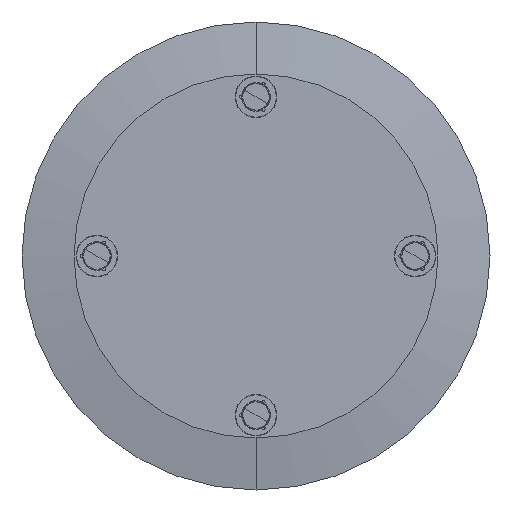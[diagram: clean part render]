
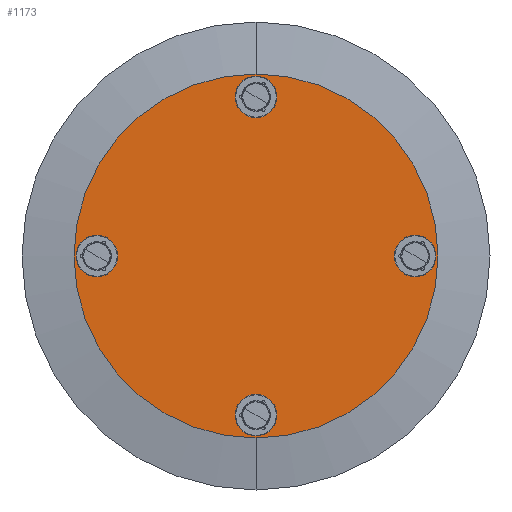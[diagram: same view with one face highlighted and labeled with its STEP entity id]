
A CAD part, front view. The second image highlights one B-rep face of the part: STEP entity #1173.
In plain terms, the highlighted planar face has unit normal (0, -1, 0).
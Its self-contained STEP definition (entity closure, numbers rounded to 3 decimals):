
#9 = AXIS2_PLACEMENT_3D ( 'NONE', #1265, #1843, #286 ) ;
#36 = EDGE_CURVE ( 'NONE', #1624, #1856, #1277, .T. ) ;
#44 = VERTEX_POINT ( 'NONE', #1955 ) ;
#96 = CIRCLE ( 'NONE', #803, 40. ) ;
#120 = AXIS2_PLACEMENT_3D ( 'NONE', #1756, #383, #371 ) ;
#145 = CARTESIAN_POINT ( 'NONE',  ( 0., 0., -350. ) ) ;
#146 = ORIENTED_EDGE ( 'NONE', *, *, #1828, .F. ) ;
#147 = AXIS2_PLACEMENT_3D ( 'NONE', #1286, #2229, #686 ) ;
#221 = FACE_BOUND ( 'NONE', #1071, .T. ) ;
#269 = EDGE_CURVE ( 'NONE', #1872, #1892, #96, .T. ) ;
#277 = CARTESIAN_POINT ( 'NONE',  ( 0., 0., -266. ) ) ;
#286 = DIRECTION ( 'NONE',  ( 0., 0., -1. ) ) ;
#297 = EDGE_CURVE ( 'NONE', #1710, #1587, #1213, .T. ) ;
#308 = VERTEX_POINT ( 'NONE', #277 ) ;
#315 = AXIS2_PLACEMENT_3D ( 'NONE', #1246, #880, #664 ) ;
#323 = CARTESIAN_POINT ( 'NONE',  ( 0., 0., 350. ) ) ;
#371 = DIRECTION ( 'NONE',  ( 0., 0., -1. ) ) ;
#383 = DIRECTION ( 'NONE',  ( 0., -1., 0. ) ) ;
#398 = AXIS2_PLACEMENT_3D ( 'NONE', #1068, #482, #677 ) ;
#464 = DIRECTION ( 'NONE',  ( 0., 0., -1. ) ) ;
#482 = DIRECTION ( 'NONE',  ( 0., -1., 0. ) ) ;
#524 = EDGE_CURVE ( 'NONE', #44, #1959, #964, .T. ) ;
#549 = DIRECTION ( 'NONE',  ( 0., 1., 0. ) ) ;
#585 = ORIENTED_EDGE ( 'NONE', *, *, #654, .F. ) ;
#596 = CARTESIAN_POINT ( 'NONE',  ( 0., 0., -346. ) ) ;
#599 = EDGE_CURVE ( 'NONE', #1587, #1710, #2036, .T. ) ;
#635 = EDGE_CURVE ( 'NONE', #308, #1440, #2156, .T. ) ;
#654 = EDGE_CURVE ( 'NONE', #1959, #44, #1115, .T. ) ;
#664 = DIRECTION ( 'NONE',  ( 0., 0., -1. ) ) ;
#667 = EDGE_LOOP ( 'NONE', ( #585, #1740 ) ) ;
#677 = DIRECTION ( 'NONE',  ( 0., 0., -1. ) ) ;
#681 = ORIENTED_EDGE ( 'NONE', *, *, #36, .F. ) ;
#686 = DIRECTION ( 'NONE',  ( 0., 0., 1. ) ) ;
#700 = FACE_BOUND ( 'NONE', #1074, .T. ) ;
#724 = DIRECTION ( 'NONE',  ( 0., 0., 1. ) ) ;
#781 = DIRECTION ( 'NONE',  ( 0., 0., 1. ) ) ;
#803 = AXIS2_PLACEMENT_3D ( 'NONE', #1628, #2027, #856 ) ;
#817 = CARTESIAN_POINT ( 'NONE',  ( -306., 0., -40. ) ) ;
#818 = CIRCLE ( 'NONE', #913, 40. ) ;
#829 = DIRECTION ( 'NONE',  ( 0., -1., 0. ) ) ;
#840 = CARTESIAN_POINT ( 'NONE',  ( -306., 0., 0. ) ) ;
#856 = DIRECTION ( 'NONE',  ( 0., 0., -1. ) ) ;
#863 = AXIS2_PLACEMENT_3D ( 'NONE', #2301, #549, #781 ) ;
#880 = DIRECTION ( 'NONE',  ( 0., -1., 0. ) ) ;
#905 = CIRCLE ( 'NONE', #2378, 40. ) ;
#913 = AXIS2_PLACEMENT_3D ( 'NONE', #945, #1749, #1328 ) ;
#945 = CARTESIAN_POINT ( 'NONE',  ( 0., 0., 306. ) ) ;
#964 = CIRCLE ( 'NONE', #9, 40. ) ;
#974 = AXIS2_PLACEMENT_3D ( 'NONE', #2085, #1078, #724 ) ;
#979 = CARTESIAN_POINT ( 'NONE',  ( 0., 0., 346. ) ) ;
#1036 = ORIENTED_EDGE ( 'NONE', *, *, #599, .T. ) ;
#1068 = CARTESIAN_POINT ( 'NONE',  ( 306., 0., 0. ) ) ;
#1071 = EDGE_LOOP ( 'NONE', ( #1903, #1694 ) ) ;
#1074 = EDGE_LOOP ( 'NONE', ( #681, #1804 ) ) ;
#1078 = DIRECTION ( 'NONE',  ( 0., -1., 0. ) ) ;
#1087 = FACE_BOUND ( 'NONE', #667, .T. ) ;
#1097 = ORIENTED_EDGE ( 'NONE', *, *, #635, .F. ) ;
#1115 = CIRCLE ( 'NONE', #398, 40. ) ;
#1164 = EDGE_CURVE ( 'NONE', #1856, #1624, #818, .T. ) ;
#1173 = ADVANCED_FACE ( 'NONE', ( #1087, #2241, #221, #700, #2366 ), #1946, .F. ) ;
#1213 = CIRCLE ( 'NONE', #974, 350. ) ;
#1215 = ORIENTED_EDGE ( 'NONE', *, *, #297, .T. ) ;
#1246 = CARTESIAN_POINT ( 'NONE',  ( 0., 0., -306. ) ) ;
#1259 = CARTESIAN_POINT ( 'NONE',  ( 306., 0., -40. ) ) ;
#1265 = CARTESIAN_POINT ( 'NONE',  ( 306., 0., 0. ) ) ;
#1277 = CIRCLE ( 'NONE', #120, 40. ) ;
#1286 = CARTESIAN_POINT ( 'NONE',  ( 0., 0., 0. ) ) ;
#1328 = DIRECTION ( 'NONE',  ( 0., 0., -1. ) ) ;
#1387 = CARTESIAN_POINT ( 'NONE',  ( 0., 0., -306. ) ) ;
#1440 = VERTEX_POINT ( 'NONE', #596 ) ;
#1587 = VERTEX_POINT ( 'NONE', #323 ) ;
#1624 = VERTEX_POINT ( 'NONE', #1868 ) ;
#1628 = CARTESIAN_POINT ( 'NONE',  ( -306., 0., 0. ) ) ;
#1671 = EDGE_LOOP ( 'NONE', ( #146, #1097 ) ) ;
#1694 = ORIENTED_EDGE ( 'NONE', *, *, #2405, .F. ) ;
#1710 = VERTEX_POINT ( 'NONE', #145 ) ;
#1740 = ORIENTED_EDGE ( 'NONE', *, *, #524, .F. ) ;
#1749 = DIRECTION ( 'NONE',  ( 0., -1., 0. ) ) ;
#1756 = CARTESIAN_POINT ( 'NONE',  ( 0., 0., 306. ) ) ;
#1791 = DIRECTION ( 'NONE',  ( 0., 0., -1. ) ) ;
#1801 = AXIS2_PLACEMENT_3D ( 'NONE', #840, #1850, #464 ) ;
#1804 = ORIENTED_EDGE ( 'NONE', *, *, #1164, .F. ) ;
#1823 = CIRCLE ( 'NONE', #1801, 40. ) ;
#1828 = EDGE_CURVE ( 'NONE', #1440, #308, #905, .T. ) ;
#1843 = DIRECTION ( 'NONE',  ( 0., -1., 0. ) ) ;
#1850 = DIRECTION ( 'NONE',  ( 0., -1., 0. ) ) ;
#1856 = VERTEX_POINT ( 'NONE', #979 ) ;
#1868 = CARTESIAN_POINT ( 'NONE',  ( 0., 0., 266. ) ) ;
#1872 = VERTEX_POINT ( 'NONE', #817 ) ;
#1892 = VERTEX_POINT ( 'NONE', #1967 ) ;
#1903 = ORIENTED_EDGE ( 'NONE', *, *, #269, .F. ) ;
#1946 = PLANE ( 'NONE',  #863 ) ;
#1955 = CARTESIAN_POINT ( 'NONE',  ( 306., 0., 40. ) ) ;
#1959 = VERTEX_POINT ( 'NONE', #1259 ) ;
#1967 = CARTESIAN_POINT ( 'NONE',  ( -306., 0., 40. ) ) ;
#2027 = DIRECTION ( 'NONE',  ( 0., -1., 0. ) ) ;
#2036 = CIRCLE ( 'NONE', #147, 350. ) ;
#2085 = CARTESIAN_POINT ( 'NONE',  ( 0., 0., 0. ) ) ;
#2156 = CIRCLE ( 'NONE', #315, 40. ) ;
#2229 = DIRECTION ( 'NONE',  ( 0., -1., 0. ) ) ;
#2241 = FACE_BOUND ( 'NONE', #1671, .T. ) ;
#2255 = EDGE_LOOP ( 'NONE', ( #1036, #1215 ) ) ;
#2301 = CARTESIAN_POINT ( 'NONE',  ( 0., 0., 0. ) ) ;
#2366 = FACE_OUTER_BOUND ( 'NONE', #2255, .T. ) ;
#2378 = AXIS2_PLACEMENT_3D ( 'NONE', #1387, #829, #1791 ) ;
#2405 = EDGE_CURVE ( 'NONE', #1892, #1872, #1823, .T. ) ;
